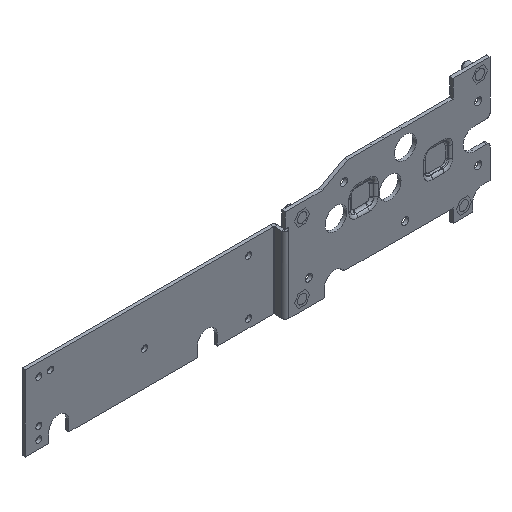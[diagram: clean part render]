
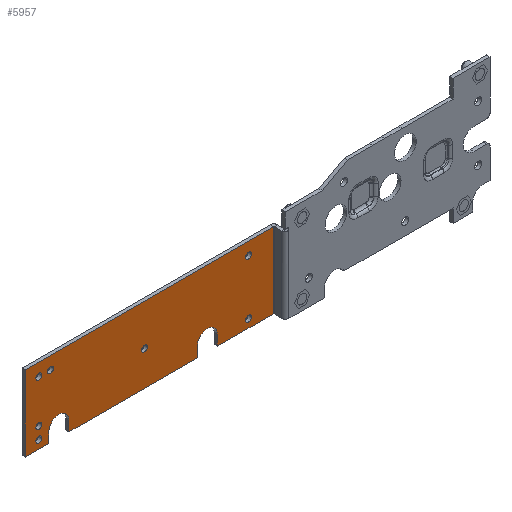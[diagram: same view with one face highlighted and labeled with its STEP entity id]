
A CAD part, isometric view. The second image highlights one B-rep face of the part: STEP entity #5957.
In plain terms, the highlighted planar face has unit normal (0, -1, 0).
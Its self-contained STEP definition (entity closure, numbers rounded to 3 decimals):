
#1713=CARTESIAN_POINT('',(-135.,6.9,-22.5));
#1714=DIRECTION('',(0.,1.,0.));
#1715=DIRECTION('',(-1.,0.,0.));
#1716=AXIS2_PLACEMENT_3D('',#1713,#1714,#1715);
#1718=CARTESIAN_POINT('',(-135.,6.9,-22.5));
#1719=DIRECTION('',(0.,1.,0.));
#1720=DIRECTION('',(1.,0.,0.));
#1721=AXIS2_PLACEMENT_3D('',#1718,#1719,#1720);
#1723=CARTESIAN_POINT('',(-10.,6.9,-22.5));
#1724=DIRECTION('',(0.,1.,0.));
#1725=DIRECTION('',(-1.,0.,0.));
#1726=AXIS2_PLACEMENT_3D('',#1723,#1724,#1725);
#1728=CARTESIAN_POINT('',(-10.,6.9,-22.5));
#1729=DIRECTION('',(0.,1.,0.));
#1730=DIRECTION('',(1.,0.,0.));
#1731=AXIS2_PLACEMENT_3D('',#1728,#1729,#1730);
#1733=CARTESIAN_POINT('',(-10.,6.9,10.));
#1734=DIRECTION('',(0.,1.,0.));
#1735=DIRECTION('',(-1.,0.,0.));
#1736=AXIS2_PLACEMENT_3D('',#1733,#1734,#1735);
#1738=CARTESIAN_POINT('',(-10.,6.9,10.));
#1739=DIRECTION('',(0.,1.,0.));
#1740=DIRECTION('',(1.,0.,0.));
#1741=AXIS2_PLACEMENT_3D('',#1738,#1739,#1740);
#1743=CARTESIAN_POINT('',(-72.,6.9,-7.));
#1744=DIRECTION('',(0.,1.,0.));
#1745=DIRECTION('',(-1.,0.,0.));
#1746=AXIS2_PLACEMENT_3D('',#1743,#1744,#1745);
#1748=CARTESIAN_POINT('',(-72.,6.9,-7.));
#1749=DIRECTION('',(0.,1.,0.));
#1750=DIRECTION('',(1.,0.,0.));
#1751=AXIS2_PLACEMENT_3D('',#1748,#1749,#1750);
#1753=CARTESIAN_POINT('',(-135.,6.9,10.));
#1754=DIRECTION('',(0.,1.,0.));
#1755=DIRECTION('',(-1.,0.,0.));
#1756=AXIS2_PLACEMENT_3D('',#1753,#1754,#1755);
#1758=CARTESIAN_POINT('',(-135.,6.9,10.));
#1759=DIRECTION('',(0.,1.,0.));
#1760=DIRECTION('',(1.,0.,0.));
#1761=AXIS2_PLACEMENT_3D('',#1758,#1759,#1760);
#1763=CARTESIAN_POINT('',(-135.,6.9,-15.5));
#1764=DIRECTION('',(0.,1.,0.));
#1765=DIRECTION('',(-1.,0.,0.));
#1766=AXIS2_PLACEMENT_3D('',#1763,#1764,#1765);
#1768=CARTESIAN_POINT('',(-135.,6.9,-15.5));
#1769=DIRECTION('',(0.,1.,0.));
#1770=DIRECTION('',(1.,0.,0.));
#1771=AXIS2_PLACEMENT_3D('',#1768,#1769,#1770);
#1773=CARTESIAN_POINT('',(-128.,6.9,10.));
#1774=DIRECTION('',(0.,1.,0.));
#1775=DIRECTION('',(-1.,0.,0.));
#1776=AXIS2_PLACEMENT_3D('',#1773,#1774,#1775);
#1778=CARTESIAN_POINT('',(-128.,6.9,10.));
#1779=DIRECTION('',(0.,1.,0.));
#1780=DIRECTION('',(1.,0.,0.));
#1781=AXIS2_PLACEMENT_3D('',#1778,#1779,#1780);
#1783=DIRECTION('',(0.,0.,1.));
#1784=VECTOR('',#1783,6.);
#1785=CARTESIAN_POINT('',(-28.5,6.9,-27.5));
#1786=LINE('',#1785,#1784);
#1787=CARTESIAN_POINT('',(-34.5,6.9,-21.5));
#1788=DIRECTION('',(0.,1.,0.));
#1789=DIRECTION('',(-1.,0.,0.));
#1790=AXIS2_PLACEMENT_3D('',#1787,#1788,#1789);
#1792=DIRECTION('',(0.,0.,1.));
#1793=VECTOR('',#1792,6.);
#1794=CARTESIAN_POINT('',(-40.5,6.9,-27.5));
#1795=LINE('',#1794,#1793);
#1796=DIRECTION('',(-1.,0.,0.));
#1797=VECTOR('',#1796,76.5);
#1798=CARTESIAN_POINT('',(-40.5,6.9,-27.5));
#1799=LINE('',#1798,#1797);
#1800=DIRECTION('',(0.,0.,1.));
#1801=VECTOR('',#1800,6.);
#1802=CARTESIAN_POINT('',(-117.,6.9,-27.5));
#1803=LINE('',#1802,#1801);
#1804=CARTESIAN_POINT('',(-123.,6.9,-21.5));
#1805=DIRECTION('',(0.,1.,0.));
#1806=DIRECTION('',(-1.,0.,0.));
#1807=AXIS2_PLACEMENT_3D('',#1804,#1805,#1806);
#1809=DIRECTION('',(0.,0.,1.));
#1810=VECTOR('',#1809,6.);
#1811=CARTESIAN_POINT('',(-129.,6.9,-27.5));
#1812=LINE('',#1811,#1810);
#1813=DIRECTION('',(-1.,0.,0.));
#1814=VECTOR('',#1813,14.);
#1815=CARTESIAN_POINT('',(-129.,6.9,-27.5));
#1816=LINE('',#1815,#1814);
#1817=DIRECTION('',(0.,0.,1.));
#1818=VECTOR('',#1817,45.);
#1819=CARTESIAN_POINT('',(-143.,6.9,-27.5));
#1820=LINE('',#1819,#1818);
#1821=DIRECTION('',(1.,0.,0.));
#1822=VECTOR('',#1821,147.8);
#1823=CARTESIAN_POINT('',(-143.,6.9,17.5));
#1824=LINE('',#1823,#1822);
#1825=DIRECTION('',(-1.,0.,0.));
#1826=VECTOR('',#1825,33.3);
#1827=CARTESIAN_POINT('',(4.8,6.9,-27.5));
#1828=LINE('',#1827,#1826);
#1889=DIRECTION('',(0.,0.,-1.));
#1890=VECTOR('',#1889,45.);
#1891=CARTESIAN_POINT('',(4.8,6.9,17.5));
#1892=LINE('',#1891,#1890);
#2791=CARTESIAN_POINT('',(-143.,6.9,-27.5));
#2792=CARTESIAN_POINT('',(-143.,6.9,17.5));
#2793=VERTEX_POINT('',#2791);
#2794=VERTEX_POINT('',#2792);
#2795=CARTESIAN_POINT('',(4.8,6.9,17.5));
#2796=VERTEX_POINT('',#2795);
#2797=CARTESIAN_POINT('',(4.8,6.9,-27.5));
#2798=VERTEX_POINT('',#2797);
#2861=CARTESIAN_POINT('',(-136.75,6.9,-22.5));
#2862=CARTESIAN_POINT('',(-133.25,6.9,-22.5));
#2863=VERTEX_POINT('',#2861);
#2864=VERTEX_POINT('',#2862);
#2865=CARTESIAN_POINT('',(-11.75,6.9,-22.5));
#2866=CARTESIAN_POINT('',(-8.25,6.9,-22.5));
#2867=VERTEX_POINT('',#2865);
#2868=VERTEX_POINT('',#2866);
#2869=CARTESIAN_POINT('',(-11.75,6.9,10.));
#2870=CARTESIAN_POINT('',(-8.25,6.9,10.));
#2871=VERTEX_POINT('',#2869);
#2872=VERTEX_POINT('',#2870);
#2873=CARTESIAN_POINT('',(-73.75,6.9,-7.));
#2874=CARTESIAN_POINT('',(-70.25,6.9,-7.));
#2875=VERTEX_POINT('',#2873);
#2876=VERTEX_POINT('',#2874);
#2877=CARTESIAN_POINT('',(-136.75,6.9,10.));
#2878=CARTESIAN_POINT('',(-133.25,6.9,10.));
#2879=VERTEX_POINT('',#2877);
#2880=VERTEX_POINT('',#2878);
#2901=CARTESIAN_POINT('',(-136.75,6.9,-15.5));
#2902=CARTESIAN_POINT('',(-133.25,6.9,-15.5));
#2903=VERTEX_POINT('',#2901);
#2904=VERTEX_POINT('',#2902);
#2905=CARTESIAN_POINT('',(-129.75,6.9,10.));
#2906=CARTESIAN_POINT('',(-126.25,6.9,10.));
#2907=VERTEX_POINT('',#2905);
#2908=VERTEX_POINT('',#2906);
#2917=CARTESIAN_POINT('',(-28.5,6.9,-27.5));
#2918=CARTESIAN_POINT('',(-28.5,6.9,-21.5));
#2919=VERTEX_POINT('',#2917);
#2920=VERTEX_POINT('',#2918);
#2921=CARTESIAN_POINT('',(-40.5,6.9,-21.5));
#2922=VERTEX_POINT('',#2921);
#2923=CARTESIAN_POINT('',(-40.5,6.9,-27.5));
#2924=VERTEX_POINT('',#2923);
#2925=CARTESIAN_POINT('',(-117.,6.9,-27.5));
#2926=CARTESIAN_POINT('',(-117.,6.9,-21.5));
#2927=VERTEX_POINT('',#2925);
#2928=VERTEX_POINT('',#2926);
#2929=CARTESIAN_POINT('',(-129.,6.9,-21.5));
#2930=VERTEX_POINT('',#2929);
#2931=CARTESIAN_POINT('',(-129.,6.9,-27.5));
#2932=VERTEX_POINT('',#2931);
#5885=CARTESIAN_POINT('',(7.,6.9,-27.5));
#5886=DIRECTION('',(0.,1.,0.));
#5887=DIRECTION('',(0.,0.,-1.));
#5888=AXIS2_PLACEMENT_3D('',#5885,#5886,#5887);
#5889=PLANE('',#5888);
#5891=ORIENTED_EDGE('',*,*,#5890,.T.);
#5893=ORIENTED_EDGE('',*,*,#5892,.F.);
#5895=ORIENTED_EDGE('',*,*,#5894,.F.);
#5897=ORIENTED_EDGE('',*,*,#5896,.T.);
#5899=ORIENTED_EDGE('',*,*,#5898,.T.);
#5901=ORIENTED_EDGE('',*,*,#5900,.F.);
#5903=ORIENTED_EDGE('',*,*,#5902,.F.);
#5905=ORIENTED_EDGE('',*,*,#5904,.T.);
#5907=ORIENTED_EDGE('',*,*,#5906,.T.);
#5909=ORIENTED_EDGE('',*,*,#5908,.T.);
#5911=ORIENTED_EDGE('',*,*,#5910,.T.);
#5913=ORIENTED_EDGE('',*,*,#5912,.T.);
#5914=EDGE_LOOP('',(#5891,#5893,#5895,#5897,#5899,#5901,#5903,#5905,#5907,#5909,
#5911,#5913));
#5915=FACE_OUTER_BOUND('',#5914,.F.);
#5917=ORIENTED_EDGE('',*,*,#5916,.F.);
#5919=ORIENTED_EDGE('',*,*,#5918,.F.);
#5920=EDGE_LOOP('',(#5917,#5919));
#5921=FACE_BOUND('',#5920,.F.);
#5923=ORIENTED_EDGE('',*,*,#5922,.F.);
#5925=ORIENTED_EDGE('',*,*,#5924,.F.);
#5926=EDGE_LOOP('',(#5923,#5925));
#5927=FACE_BOUND('',#5926,.F.);
#5929=ORIENTED_EDGE('',*,*,#5928,.F.);
#5931=ORIENTED_EDGE('',*,*,#5930,.F.);
#5932=EDGE_LOOP('',(#5929,#5931));
#5933=FACE_BOUND('',#5932,.F.);
#5934=ORIENTED_EDGE('',*,*,#5875,.F.);
#5936=ORIENTED_EDGE('',*,*,#5935,.F.);
#5937=EDGE_LOOP('',(#5934,#5936));
#5938=FACE_BOUND('',#5937,.F.);
#5940=ORIENTED_EDGE('',*,*,#5939,.F.);
#5942=ORIENTED_EDGE('',*,*,#5941,.F.);
#5943=EDGE_LOOP('',(#5940,#5942));
#5944=FACE_BOUND('',#5943,.F.);
#5946=ORIENTED_EDGE('',*,*,#5945,.F.);
#5948=ORIENTED_EDGE('',*,*,#5947,.F.);
#5949=EDGE_LOOP('',(#5946,#5948));
#5950=FACE_BOUND('',#5949,.F.);
#5952=ORIENTED_EDGE('',*,*,#5951,.F.);
#5954=ORIENTED_EDGE('',*,*,#5953,.F.);
#5955=EDGE_LOOP('',(#5952,#5954));
#5956=FACE_BOUND('',#5955,.F.);
#5957=ADVANCED_FACE('',(#5915,#5921,#5927,#5933,#5938,#5944,#5950,#5956),#5889,
.F.);
#1717=CIRCLE('',#1716,1.75);
#1722=CIRCLE('',#1721,1.75);
#1727=CIRCLE('',#1726,1.75);
#1732=CIRCLE('',#1731,1.75);
#1737=CIRCLE('',#1736,1.75);
#1742=CIRCLE('',#1741,1.75);
#1747=CIRCLE('',#1746,1.75);
#1752=CIRCLE('',#1751,1.75);
#1757=CIRCLE('',#1756,1.75);
#1762=CIRCLE('',#1761,1.75);
#1767=CIRCLE('',#1766,1.75);
#1772=CIRCLE('',#1771,1.75);
#1777=CIRCLE('',#1776,1.75);
#1782=CIRCLE('',#1781,1.75);
#1791=CIRCLE('',#1790,6.);
#1808=CIRCLE('',#1807,6.);
#5875=EDGE_CURVE('',#2879,#2880,#1757,.T.);
#5890=EDGE_CURVE('',#2919,#2920,#1786,.T.);
#5892=EDGE_CURVE('',#2922,#2920,#1791,.T.);
#5894=EDGE_CURVE('',#2924,#2922,#1795,.T.);
#5896=EDGE_CURVE('',#2924,#2927,#1799,.T.);
#5898=EDGE_CURVE('',#2927,#2928,#1803,.T.);
#5900=EDGE_CURVE('',#2930,#2928,#1808,.T.);
#5902=EDGE_CURVE('',#2932,#2930,#1812,.T.);
#5904=EDGE_CURVE('',#2932,#2793,#1816,.T.);
#5906=EDGE_CURVE('',#2793,#2794,#1820,.T.);
#5908=EDGE_CURVE('',#2794,#2796,#1824,.T.);
#5910=EDGE_CURVE('',#2796,#2798,#1892,.T.);
#5912=EDGE_CURVE('',#2798,#2919,#1828,.T.);
#5916=EDGE_CURVE('',#2867,#2868,#1727,.T.);
#5918=EDGE_CURVE('',#2868,#2867,#1732,.T.);
#5922=EDGE_CURVE('',#2871,#2872,#1737,.T.);
#5924=EDGE_CURVE('',#2872,#2871,#1742,.T.);
#5928=EDGE_CURVE('',#2875,#2876,#1747,.T.);
#5930=EDGE_CURVE('',#2876,#2875,#1752,.T.);
#5935=EDGE_CURVE('',#2880,#2879,#1762,.T.);
#5939=EDGE_CURVE('',#2903,#2904,#1767,.T.);
#5941=EDGE_CURVE('',#2904,#2903,#1772,.T.);
#5945=EDGE_CURVE('',#2907,#2908,#1777,.T.);
#5947=EDGE_CURVE('',#2908,#2907,#1782,.T.);
#5951=EDGE_CURVE('',#2863,#2864,#1717,.T.);
#5953=EDGE_CURVE('',#2864,#2863,#1722,.T.);
